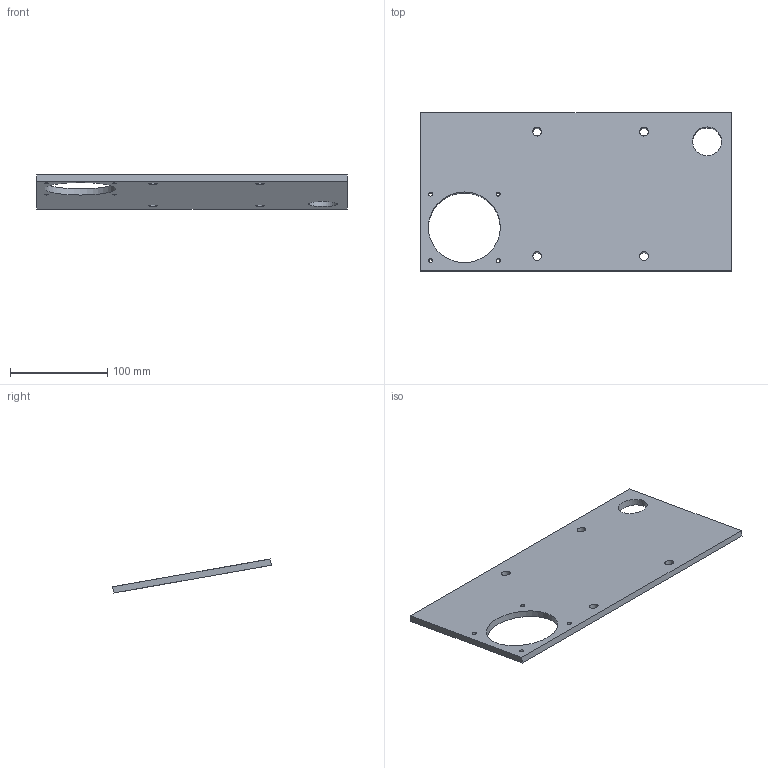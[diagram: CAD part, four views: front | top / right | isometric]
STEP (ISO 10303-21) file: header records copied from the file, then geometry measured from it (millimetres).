
FILE_DESCRIPTION(('golf model'),'2;1');
FILE_NAME('golf','',(''),(''),'golf_step_io','golf','');
FILE_SCHEMA(('AUTOMOTIVE_DESIGN { 1 0 10303 214 1 1 1 1 }'));
Length unit declared in the file: millimetre
Products named in the file (2): ASSEMBLY; gantry_drives.y_motor_plate
Assembly tree (1 placements, depth 2):
  ASSEMBLY
    gantry_drives.y_motor_plate
Bounding box: 320 x 163.62 x 35.05 mm (x, y, z)
Volume: 308635.7 mm3; surface area: 104471.7 mm2
Topology: 1 solids, 1 shells, 16 faces, 42 edges, 28 vertices
Faces by surface type: cylinder 10, plane 6
Full cylindrical faces by diameter (mm): 4.2 x4, 9 x4, 30 x1, 74 x1
Entity records: 530 total; most frequent: DIRECTION 88, CARTESIAN_POINT 78, ORIENTED_EDGE 64, EDGE_LOOP 46, FACE_BOUND 44, AXIS2_PLACEMENT_3D 38, EDGE_CURVE 32, VERTEX_POINT 28
